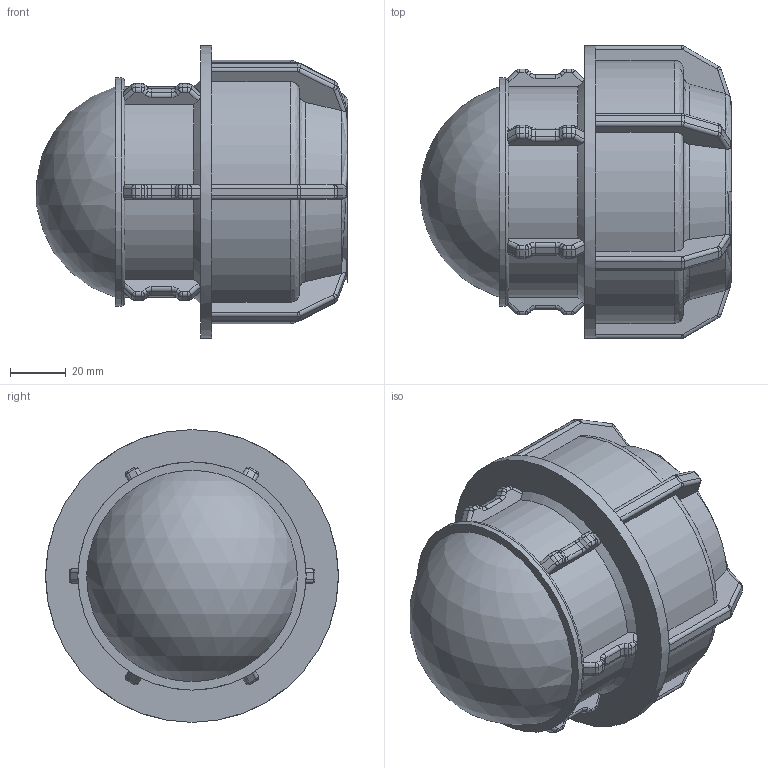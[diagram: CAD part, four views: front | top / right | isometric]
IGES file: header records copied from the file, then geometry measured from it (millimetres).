
Global section: file name: 141200063.ipt; native system: Autodesk Inventor 2015; preprocessor: unknown; author: KIM; date: 20180409.131141; units: millimetre
Bounding box: 111.73 x 105 x 105 mm (x, y, z)
Volume: 262897.6 mm3; surface area: 64649.3 mm2
Topology: 1 solids, 1 shells, 465 faces, 1151 edges, 687 vertices
Faces by surface type: cylinder 170, plane 156, revolution 126, cone 12, sphere 1
Full cylindrical faces by diameter (mm): 81.9 x1, 105 x1
